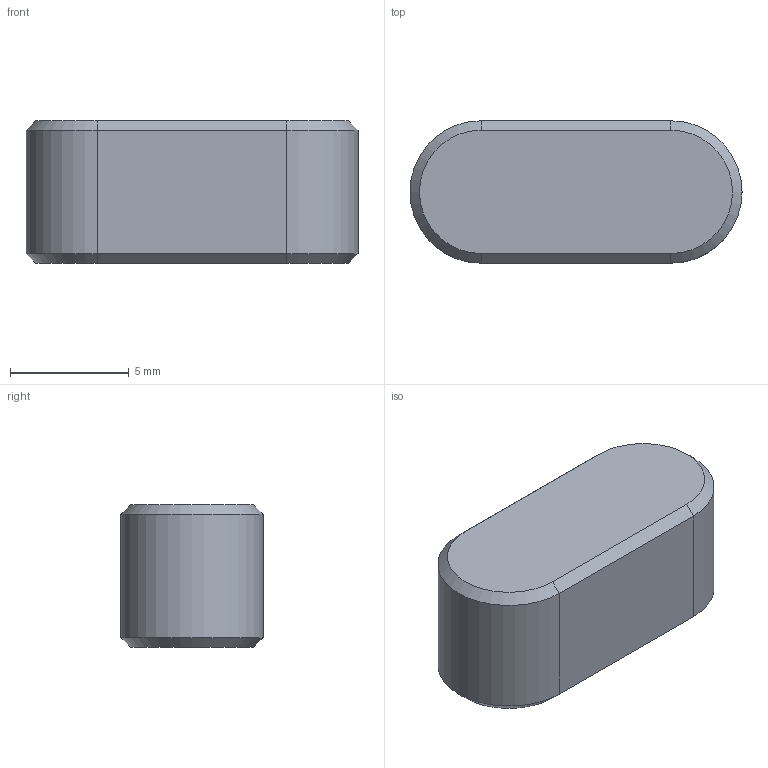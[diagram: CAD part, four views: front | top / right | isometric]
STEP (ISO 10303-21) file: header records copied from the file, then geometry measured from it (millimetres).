
FILE_DESCRIPTION(/* description */ ('키 및 해당 키홈'),/* implementation_level */ '2;1');
FILE_NAME(/* name */ '',/* time_stamp */ '2025-07-11T16:35:08+09:00',/* author */ ('jhkim'),/* organization */ (''),/* preprocessor_version */ 'ST-DEVELOPER v20.1',/* originating_system */ 'Autodesk Inventor 2026',/* authorisation */ '');
FILE_SCHEMA (('AUTOMOTIVE_DESIGN { 1 0 10303 214 3 1 1 }'));
Length unit declared in the file: millimetre
Products named in the file (1): 평행 키 6x6x14
Bounding box: 14 x 6 x 6 mm (x, y, z)
Volume: 452.2 mm3; surface area: 344.9 mm2
Topology: 1 solids, 1 shells, 14 faces, 28 edges, 16 vertices
Faces by surface type: plane 8, cone 4, cylinder 2
Entity records: 399 total; most frequent: DIRECTION 66, CARTESIAN_POINT 59, ORIENTED_EDGE 56, EDGE_CURVE 28, AXIS2_PLACEMENT_3D 23, LINE 20, VECTOR 20, VERTEX_POINT 16
